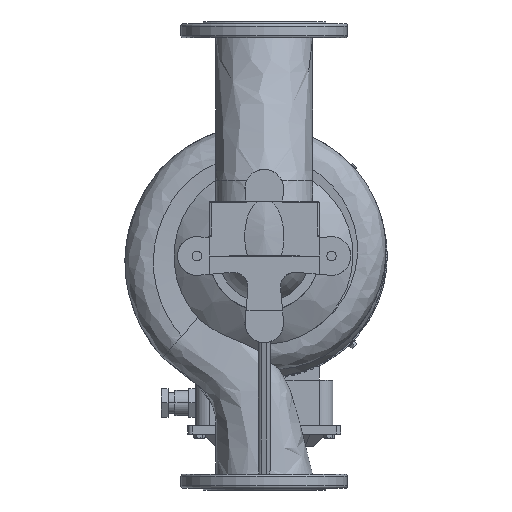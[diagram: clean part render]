
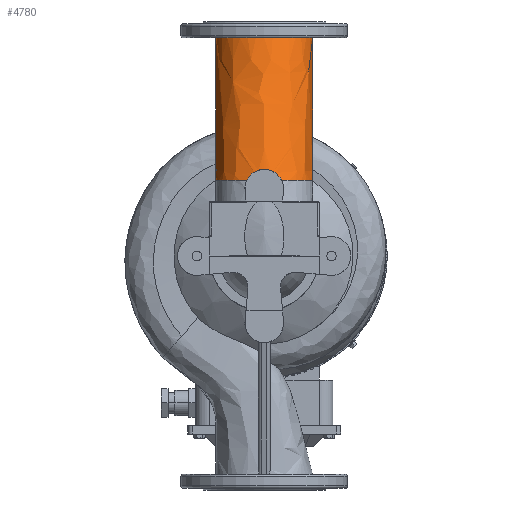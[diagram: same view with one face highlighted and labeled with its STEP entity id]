
A CAD part, front view. The second image highlights one B-rep face of the part: STEP entity #4780.
In plain terms, the highlighted free-form (B-spline) face has degree [3, 1] with [7, 2] control points.
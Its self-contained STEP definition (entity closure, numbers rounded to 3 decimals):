
#151=(
BOUNDED_SURFACE()
B_SPLINE_SURFACE(3,1,((#35895,#35896),(#35897,#35898),(#35899,#35900),(#35901,
#35902),(#35903,#35904),(#35905,#35906),(#35907,#35908)),.UNSPECIFIED.,
 .T.,.F.,.F.)
B_SPLINE_SURFACE_WITH_KNOTS((1,3,3,3,1),(2,2),(-0.5,0.,0.5,1.,1.5),(0.,
1.),.UNSPECIFIED.)
GEOMETRIC_REPRESENTATION_ITEM()
RATIONAL_B_SPLINE_SURFACE(((1.,1.),(0.333,0.333),
(0.333,0.333),(1.,1.),(0.333,0.333),
(0.333,0.333),(1.,1.)))
REPRESENTATION_ITEM('')
SURFACE()
);
#1713=LINE('',#35866,#3261);
#1714=LINE('',#35877,#3262);
#3261=VECTOR('',#28400,1.);
#3262=VECTOR('',#28403,1.);
#4780=ADVANCED_FACE('',(#6564),#151,.F.);
#6564=FACE_OUTER_BOUND('',#7902,.T.);
#7902=EDGE_LOOP('',(#11092,#11093,#11094,#11095,#11096,#11097,#11098,#11099));
#9658=CIRCLE('',#25423,82.5);
#9659=CIRCLE('',#25424,82.5);
#9660=CIRCLE('',#25425,82.5);
#11092=ORIENTED_EDGE('',*,*,#20931,.T.);
#11093=ORIENTED_EDGE('',*,*,#20932,.T.);
#11094=ORIENTED_EDGE('',*,*,#20933,.T.);
#11095=ORIENTED_EDGE('',*,*,#20934,.F.);
#11096=ORIENTED_EDGE('',*,*,#20935,.F.);
#11097=ORIENTED_EDGE('',*,*,#20936,.F.);
#11098=ORIENTED_EDGE('',*,*,#20937,.T.);
#11099=ORIENTED_EDGE('',*,*,#20938,.F.);
#18481=VERTEX_POINT('',#35867);
#18482=VERTEX_POINT('',#35868);
#18483=VERTEX_POINT('',#35871);
#18484=VERTEX_POINT('',#35873);
#18485=VERTEX_POINT('',#35876);
#18486=VERTEX_POINT('',#35878);
#18487=VERTEX_POINT('',#35880);
#18488=VERTEX_POINT('',#35893);
#20931=EDGE_CURVE('',#18481,#18482,#1713,.T.);
#20932=EDGE_CURVE('',#18482,#18483,#24455,.T.);
#20933=EDGE_CURVE('',#18483,#18484,#9658,.T.);
#20934=EDGE_CURVE('',#18485,#18484,#24456,.T.);
#20935=EDGE_CURVE('',#18486,#18485,#1714,.T.);
#20936=EDGE_CURVE('',#18487,#18486,#9659,.T.);
#20937=EDGE_CURVE('',#18487,#18488,#24457,.T.);
#20938=EDGE_CURVE('',#18481,#18488,#9660,.T.);
#24455=B_SPLINE_CURVE_WITH_KNOTS('',1,(#35869,#35870),.UNSPECIFIED.,.F.,
 .F.,(2,2),(0.,1.),.UNSPECIFIED.);
#24456=B_SPLINE_CURVE_WITH_KNOTS('',1,(#35874,#35875),.UNSPECIFIED.,.F.,
 .F.,(2,2),(0.,1.),.UNSPECIFIED.);
#24457=B_SPLINE_CURVE_WITH_KNOTS('',3,(#35881,#35882,#35883,#35884,#35885,
#35886,#35887,#35888,#35889,#35890,#35891,#35892),.UNSPECIFIED.,.F.,.F.,
(4,2,2,2,2,4),(0.,0.125,0.25,0.5,0.75,1.),.UNSPECIFIED.);
#25423=AXIS2_PLACEMENT_3D('',#35872,#28401,#28402);
#25424=AXIS2_PLACEMENT_3D('',#35879,#28404,#28405);
#25425=AXIS2_PLACEMENT_3D('',#35894,#28406,#28407);
#28400=DIRECTION('',(0.,0.423,0.906));
#28401=DIRECTION('',(0.,0.,-1.));
#28402=DIRECTION('',(-1.,0.,0.));
#28403=DIRECTION('',(0.,0.423,0.906));
#28404=DIRECTION('',(0.,0.,-1.));
#28405=DIRECTION('',(-1.,0.,0.));
#28406=DIRECTION('',(0.,0.,-1.));
#28407=DIRECTION('',(-1.,0.,0.));
#35866=CARTESIAN_POINT('',(82.5,-56.831,251.126));
#35867=CARTESIAN_POINT('',(82.5,-113.661,129.252));
#35868=CARTESIAN_POINT('',(82.5,-106.318,145.));
#35869=CARTESIAN_POINT('',(82.5,-106.318,145.));
#35870=CARTESIAN_POINT('',(82.5,0.,373.));
#35871=CARTESIAN_POINT('',(82.5,0.,373.));
#35872=CARTESIAN_POINT('',(0.,0.,373.));
#35873=CARTESIAN_POINT('',(-82.5,0.,373.));
#35874=CARTESIAN_POINT('',(-82.5,-106.318,145.));
#35875=CARTESIAN_POINT('',(-82.5,0.,373.));
#35876=CARTESIAN_POINT('',(-82.5,-106.318,145.));
#35877=CARTESIAN_POINT('',(-82.5,-56.831,251.126));
#35878=CARTESIAN_POINT('',(-82.5,-113.661,129.252));
#35879=CARTESIAN_POINT('',(0.,-113.661,129.252));
#35880=CARTESIAN_POINT('',(-29.764,-190.605,129.252));
#35881=CARTESIAN_POINT('',(-29.764,-190.605,129.252));
#35882=CARTESIAN_POINT('',(-28.449,-189.834,131.998));
#35883=CARTESIAN_POINT('',(-26.774,-189.261,134.538));
#35884=CARTESIAN_POINT('',(-22.684,-188.388,139.166));
#35885=CARTESIAN_POINT('',(-20.306,-188.098,141.197));
#35886=CARTESIAN_POINT('',(-12.459,-187.498,146.18));
#35887=CARTESIAN_POINT('',(-6.197,-187.419,147.999));
#35888=CARTESIAN_POINT('',(6.186,-187.419,148.001));
#35889=CARTESIAN_POINT('',(12.41,-187.495,146.205));
#35890=CARTESIAN_POINT('',(22.931,-188.298,139.535));
#35891=CARTESIAN_POINT('',(27.134,-189.062,134.743));
#35892=CARTESIAN_POINT('',(29.764,-190.605,129.252));
#35893=CARTESIAN_POINT('',(29.764,-190.605,129.252));
#35894=CARTESIAN_POINT('',(0.,-113.661,129.252));
#35895=CARTESIAN_POINT('',(-82.5,-113.661,129.252));
#35896=CARTESIAN_POINT('',(-82.5,0.,373.));
#35897=CARTESIAN_POINT('',(-82.5,51.339,129.252));
#35898=CARTESIAN_POINT('',(-82.5,165.,373.));
#35899=CARTESIAN_POINT('',(82.5,51.339,129.252));
#35900=CARTESIAN_POINT('',(82.5,165.,373.));
#35901=CARTESIAN_POINT('',(82.5,-113.661,129.252));
#35902=CARTESIAN_POINT('',(82.5,0.,373.));
#35903=CARTESIAN_POINT('',(82.5,-278.661,129.252));
#35904=CARTESIAN_POINT('',(82.5,-165.,373.));
#35905=CARTESIAN_POINT('',(-82.5,-278.661,129.252));
#35906=CARTESIAN_POINT('',(-82.5,-165.,373.));
#35907=CARTESIAN_POINT('',(-82.5,-113.661,129.252));
#35908=CARTESIAN_POINT('',(-82.5,0.,373.));
